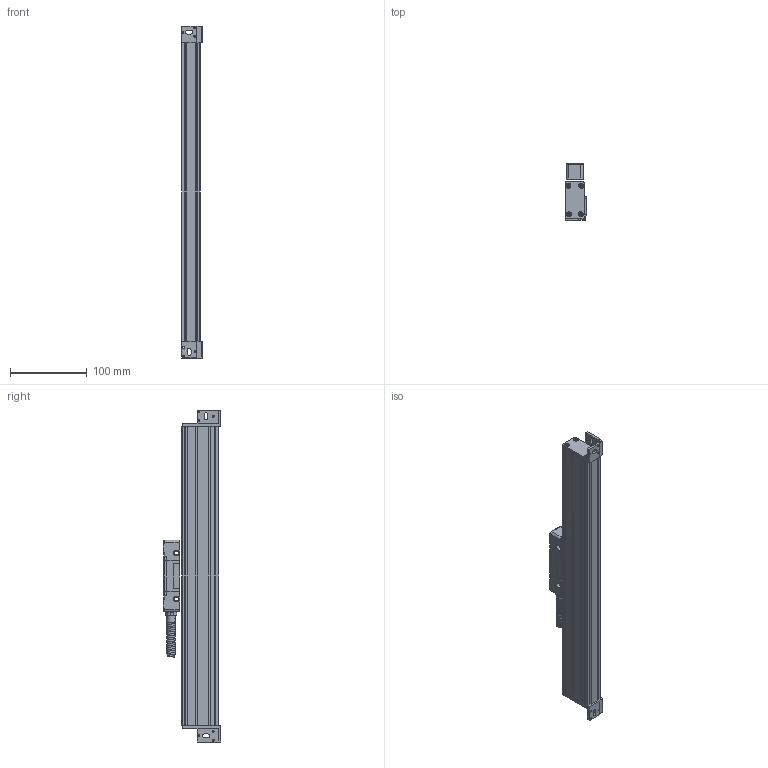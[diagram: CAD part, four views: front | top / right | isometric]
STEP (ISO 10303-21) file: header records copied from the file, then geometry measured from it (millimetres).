
FILE_DESCRIPTION (( 'STEP AP214' ), '1' );
FILE_NAME ('MLC310x0270.STEP', '2021-05-08T11:47:32', ( '' ), ( '' ), 'SwSTEP 2.0', 'SolidWorks 2014', '' );
FILE_SCHEMA (( 'AUTOMOTIVE_DESIGN' ));
Length unit declared in the file: millimetre
Products named in the file (1): MLC310x0270
Bounding box: 27 x 75.15 x 434 mm (x, y, z)
Surface area: 88648.8 mm2 (no closed solid volume)
Topology: 0 solids, 19 shells, 465 faces, 1490 edges, 1027 vertices
Faces by surface type: plane 184, cylinder 149, cone 83, bspline 39, torus 10
Entity records: 32182 total; most frequent: CARTESIAN_POINT 14365, DIRECTION 2572, ORIENTED_EDGE 2415, EDGE_CURVE 1482, VERTEX_POINT 1027, AXIS2_PLACEMENT_3D 888, LINE 796, VECTOR 796
